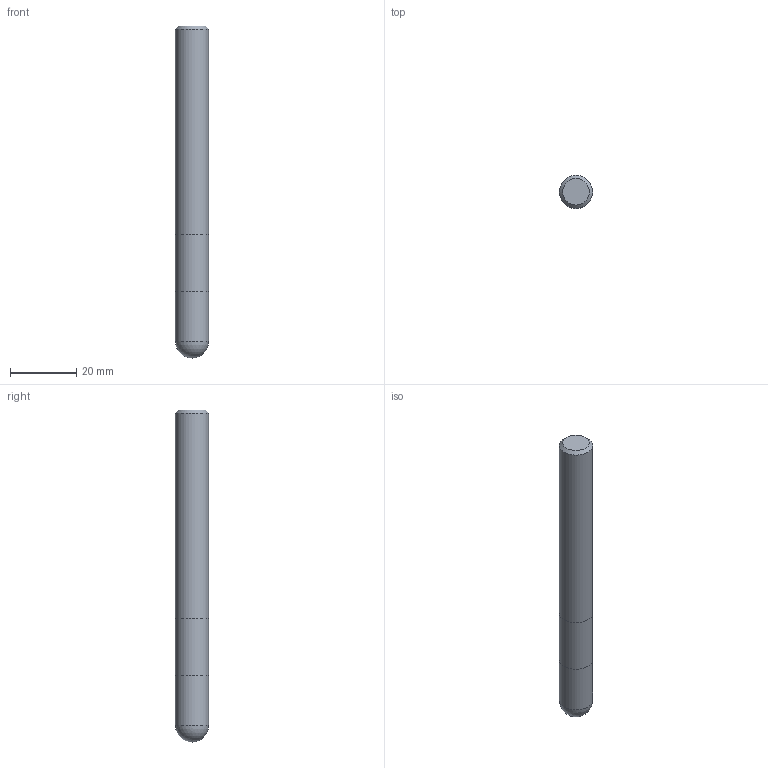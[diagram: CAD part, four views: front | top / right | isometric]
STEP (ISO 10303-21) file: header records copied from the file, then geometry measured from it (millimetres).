
FILE_DESCRIPTION((''),'2;1');
FILE_NAME('C:\Users\nsx150\AppData\Local\Temp\Mastercam 2021\EUJSUNXURU\TEMP.step','2021-04-22T10:26:45',(''),(''),'STEP Write','Mastercam 2021 ... CNC Software, Inc.','');
FILE_SCHEMA(('AUTOMOTIVE_DESIGN'));
Length unit declared in the file: millimetre
Products named in the file (1): None
Bounding box: 10 x 10 x 100 mm (x, y, z)
Volume: 7708.4 mm3; surface area: 3357.5 mm2
Topology: 2 solids, 2 shells, 8 faces, 12 edges, 7 vertices
Faces by surface type: plane 3, cylinder 3, sphere 1, cone 1
Full cylindrical faces by diameter (mm): 10 x3
Entity records: 190 total; most frequent: DIRECTION 32, CARTESIAN_POINT 22, AXIS2_PLACEMENT_3D 16, ORIENTED_EDGE 12, EDGE_LOOP 12, STYLED_ITEM 11, ADVANCED_FACE 8, FACE_BOUND 7
